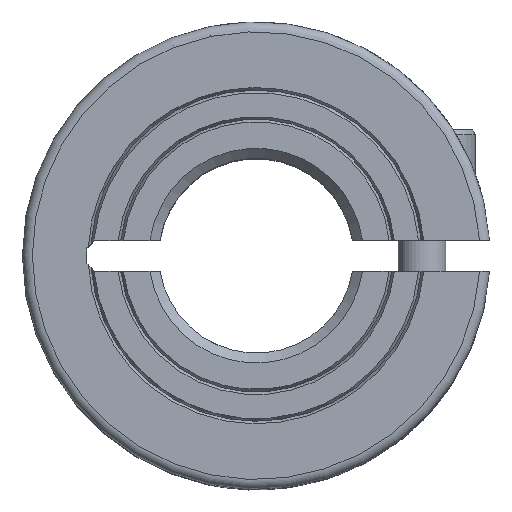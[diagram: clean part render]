
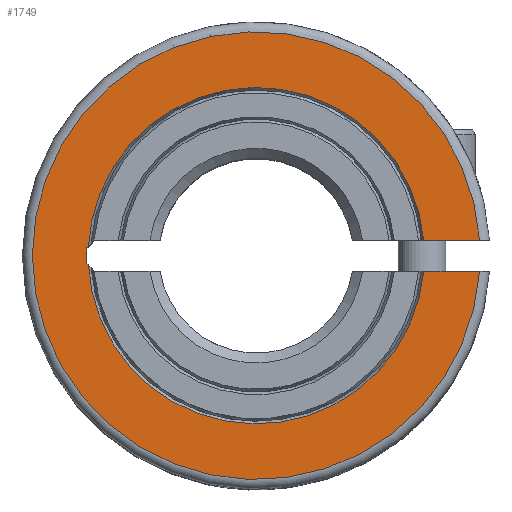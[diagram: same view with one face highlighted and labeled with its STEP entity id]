
A CAD part, top view. The second image highlights one B-rep face of the part: STEP entity #1749.
In plain terms, the highlighted planar face has unit normal (0, 0, 1).
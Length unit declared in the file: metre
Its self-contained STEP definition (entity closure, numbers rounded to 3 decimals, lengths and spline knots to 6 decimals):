
#95 = ORIENTED_EDGE ( 'NONE', *, *, #1932, .T. ) ;
#140 = DIRECTION ( 'NONE',  ( 0., 0., -1. ) ) ;
#183 = CARTESIAN_POINT ( 'NONE',  ( 0.008596, 0.000795, 0.009792 ) ) ;
#196 = VERTEX_POINT ( 'NONE', #183 ) ;
#217 = CARTESIAN_POINT ( 'NONE',  ( 0.011462, 0.000795, 0.009792 ) ) ;
#254 = DIRECTION ( 'NONE',  ( -1., 0., 0. ) ) ;
#306 = CARTESIAN_POINT ( 'NONE',  ( -0.008687, 0.000397, 0.009792 ) ) ;
#358 = VECTOR ( 'NONE', #254, 1. ) ;
#359 = DIRECTION ( 'NONE',  ( -1., 0., 0. ) ) ;
#389 = VECTOR ( 'NONE', #1952, 1. ) ;
#460 = ORIENTED_EDGE ( 'NONE', *, *, #1909, .F. ) ;
#533 = DIRECTION ( 'NONE',  ( 0., -1., 0. ) ) ;
#648 = CARTESIAN_POINT ( 'NONE',  ( -0.00862, 0.000465, 0.009792 ) ) ;
#673 = ORIENTED_EDGE ( 'NONE', *, *, #1706, .F. ) ;
#703 = VERTEX_POINT ( 'NONE', #2153 ) ;
#767 = VERTEX_POINT ( 'NONE', #217 ) ;
#784 = VECTOR ( 'NONE', #533, 1. ) ;
#789 = FACE_OUTER_BOUND ( 'NONE', #2432, .T. ) ;
#808 = DIRECTION ( 'NONE',  ( 1., 0., 0. ) ) ;
#845 = VERTEX_POINT ( 'NONE', #938 ) ;
#847 = VERTEX_POINT ( 'NONE', #1972 ) ;
#869 = CIRCLE ( 'NONE', #2043, 0.01149 ) ;
#888 = ORIENTED_EDGE ( 'NONE', *, *, #1320, .T. ) ;
#896 = CARTESIAN_POINT ( 'NONE',  ( 0., 0., 0.009792 ) ) ;
#903 = LINE ( 'NONE', #2590, #1470 ) ;
#936 = LINE ( 'NONE', #2825, #358 ) ;
#938 = CARTESIAN_POINT ( 'NONE',  ( -0.00862, -0.000465, 0.009792 ) ) ;
#953 = ORIENTED_EDGE ( 'NONE', *, *, #1237, .T. ) ;
#990 = AXIS2_PLACEMENT_3D ( 'NONE', #2706, #140, #1767 ) ;
#1006 = LINE ( 'NONE', #306, #389 ) ;
#1110 = ORIENTED_EDGE ( 'NONE', *, *, #1466, .F. ) ;
#1118 = CARTESIAN_POINT ( 'NONE',  ( 0., 0., 0.009792 ) ) ;
#1216 = CARTESIAN_POINT ( 'NONE',  ( -0.008687, 0.000795, 0.009792 ) ) ;
#1237 = EDGE_CURVE ( 'NONE', #1326, #196, #1931, .T. ) ;
#1259 = EDGE_CURVE ( 'NONE', #847, #845, #1305, .T. ) ;
#1305 = CIRCLE ( 'NONE', #990, 0.008632 ) ;
#1320 = EDGE_CURVE ( 'NONE', #767, #1830, #869, .T. ) ;
#1326 = VERTEX_POINT ( 'NONE', #648 ) ;
#1379 = DIRECTION ( 'NONE',  ( 0., 0., 1. ) ) ;
#1466 = EDGE_CURVE ( 'NONE', #767, #196, #936, .T. ) ;
#1470 = VECTOR ( 'NONE', #2168, 1. ) ;
#1473 = VECTOR ( 'NONE', #808, 1. ) ;
#1584 = PLANE ( 'NONE',  #2653 ) ;
#1607 = AXIS2_PLACEMENT_3D ( 'NONE', #2938, #2964, #359 ) ;
#1706 = EDGE_CURVE ( 'NONE', #847, #1830, #2292, .T. ) ;
#1749 = ADVANCED_FACE ( 'NONE', ( #789 ), #1584, .T. ) ;
#1753 = ORIENTED_EDGE ( 'NONE', *, *, #1867, .T. ) ;
#1767 = DIRECTION ( 'NONE',  ( -1., 0., 0. ) ) ;
#1810 = DIRECTION ( 'NONE',  ( 0., 0., 1. ) ) ;
#1830 = VERTEX_POINT ( 'NONE', #2771 ) ;
#1867 = EDGE_CURVE ( 'NONE', #845, #703, #903, .T. ) ;
#1889 = LINE ( 'NONE', #1216, #784 ) ;
#1909 = EDGE_CURVE ( 'NONE', #2249, #703, #1889, .T. ) ;
#1931 = CIRCLE ( 'NONE', #1607, 0.008632 ) ;
#1932 = EDGE_CURVE ( 'NONE', #2249, #1326, #1006, .T. ) ;
#1952 = DIRECTION ( 'NONE',  ( 0.707, 0.707, 0. ) ) ;
#1972 = CARTESIAN_POINT ( 'NONE',  ( 0.008596, -0.000795, 0.009792 ) ) ;
#2008 = CARTESIAN_POINT ( 'NONE',  ( 0.012, -0.000795, 0.009792 ) ) ;
#2043 = AXIS2_PLACEMENT_3D ( 'NONE', #1118, #1379, #2096 ) ;
#2096 = DIRECTION ( 'NONE',  ( 1., 0., 0. ) ) ;
#2153 = CARTESIAN_POINT ( 'NONE',  ( -0.008687, -0.000397, 0.009792 ) ) ;
#2168 = DIRECTION ( 'NONE',  ( -0.707, 0.707, 0. ) ) ;
#2249 = VERTEX_POINT ( 'NONE', #2416 ) ;
#2292 = LINE ( 'NONE', #2008, #1473 ) ;
#2307 = DIRECTION ( 'NONE',  ( 1., 0., 0. ) ) ;
#2321 = ORIENTED_EDGE ( 'NONE', *, *, #1259, .T. ) ;
#2416 = CARTESIAN_POINT ( 'NONE',  ( -0.008687, 0.000397, 0.009792 ) ) ;
#2432 = EDGE_LOOP ( 'NONE', ( #673, #2321, #1753, #460, #95, #953, #1110, #888 ) ) ;
#2590 = CARTESIAN_POINT ( 'NONE',  ( -0.008289, -0.000795, 0.009792 ) ) ;
#2653 = AXIS2_PLACEMENT_3D ( 'NONE', #896, #1810, #2307 ) ;
#2706 = CARTESIAN_POINT ( 'NONE',  ( 0., 0., 0.009792 ) ) ;
#2771 = CARTESIAN_POINT ( 'NONE',  ( 0.011462, -0.000795, 0.009792 ) ) ;
#2825 = CARTESIAN_POINT ( 'NONE',  ( 0.012, 0.000795, 0.009792 ) ) ;
#2938 = CARTESIAN_POINT ( 'NONE',  ( 0., 0., 0.009792 ) ) ;
#2964 = DIRECTION ( 'NONE',  ( 0., 0., -1. ) ) ;
